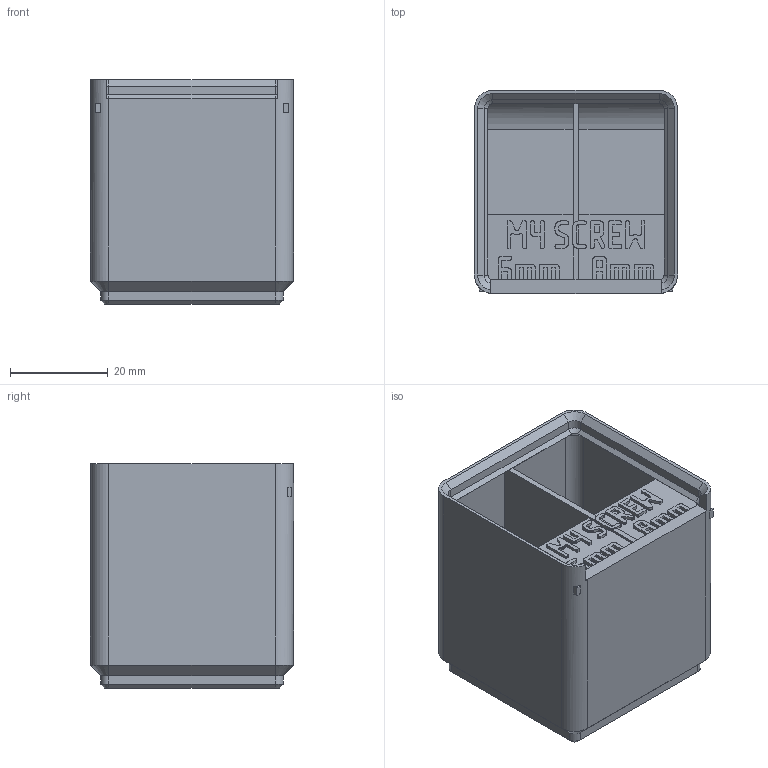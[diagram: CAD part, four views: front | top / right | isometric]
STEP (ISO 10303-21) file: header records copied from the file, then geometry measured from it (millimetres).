
FILE_DESCRIPTION(('Open CASCADE Model'),'2;1');
FILE_NAME('Open CASCADE Shape Model','2026-11-03T10:35:31',('Author'),( 'Open CASCADE'),'Open CASCADE STEP processor 8.0','build123d', 'Unknown');
FILE_SCHEMA(('AUTOMOTIVE_DESIGN { 1 0 10303 214 1 1 1 1 }'));
Products named in the file (1): COMPOUND
Bounding box: 41.5 x 41.5 x 45.9 mm (x, y, z)
Volume: 18611.8 mm3; surface area: 20273.8 mm2
Topology: 1 solids, 1 shells, 1399 faces, 4131 edges, 2738 vertices
Faces by surface type: plane 1361, cone 20, cylinder 18
Entity records: 96362 total; most frequent: CARTESIAN_POINT 20345, DIRECTION 11823, LINE 8891, VECTOR 8891, ORIENTED_EDGE 8262, PCURVE 8262, DEFINITIONAL_REPRESENTATION 8262, EDGE_CURVE 4131
